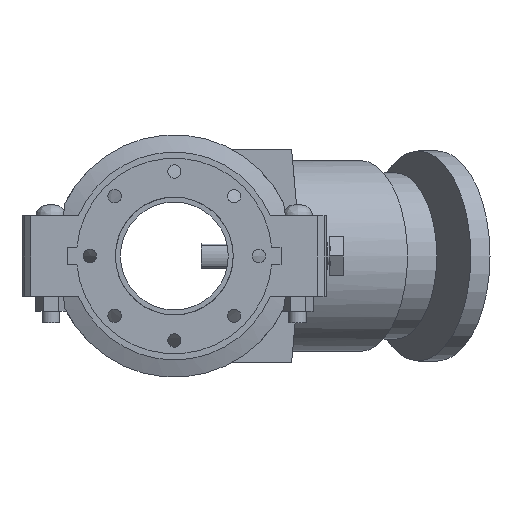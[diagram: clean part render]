
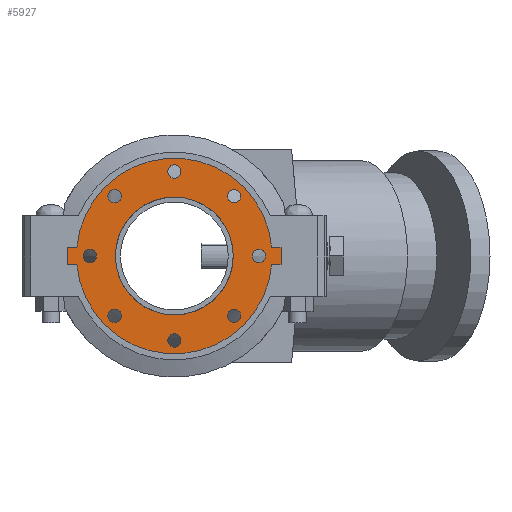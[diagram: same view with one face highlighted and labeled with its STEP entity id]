
A CAD part, front view. The second image highlights one B-rep face of the part: STEP entity #5927.
In plain terms, the highlighted planar face has unit normal (0, -1, 0) as drawn and (0, 0, 1) by its records, which use the part's own axes.
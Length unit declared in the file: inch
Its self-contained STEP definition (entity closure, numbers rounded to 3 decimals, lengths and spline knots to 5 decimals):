
#155=FACE_BOUND('',#786,.T.);
#156=FACE_BOUND('',#787,.T.);
#157=FACE_BOUND('',#788,.T.);
#158=FACE_BOUND('',#789,.T.);
#159=FACE_BOUND('',#790,.T.);
#160=FACE_BOUND('',#791,.T.);
#161=FACE_BOUND('',#792,.T.);
#162=FACE_BOUND('',#793,.T.);
#163=FACE_BOUND('',#794,.T.);
#236=PLANE('',#6491);
#446=FACE_OUTER_BOUND('',#785,.T.);
#785=EDGE_LOOP('',(#3885,#3886,#3887,#3888,#3889,#3890,#3891,#3892));
#786=EDGE_LOOP('',(#3893));
#787=EDGE_LOOP('',(#3894));
#788=EDGE_LOOP('',(#3895));
#789=EDGE_LOOP('',(#3896));
#790=EDGE_LOOP('',(#3897));
#791=EDGE_LOOP('',(#3898));
#792=EDGE_LOOP('',(#3899));
#793=EDGE_LOOP('',(#3900));
#794=EDGE_LOOP('',(#3901,#3902));
#1191=LINE('',#9108,#1627);
#1192=LINE('',#9111,#1628);
#1195=LINE('',#9116,#1631);
#1196=LINE('',#9119,#1632);
#1198=LINE('',#9122,#1634);
#1199=LINE('',#9124,#1635);
#1627=VECTOR('',#7256,0.3937);
#1628=VECTOR('',#7259,0.3937);
#1631=VECTOR('',#7264,0.3937);
#1632=VECTOR('',#7267,0.3937);
#1634=VECTOR('',#7271,0.3937);
#1635=VECTOR('',#7274,0.3937);
#2043=CIRCLE('',#6450,0.375);
#2045=CIRCLE('',#6453,0.375);
#2047=CIRCLE('',#6456,0.375);
#2049=CIRCLE('',#6459,0.375);
#2051=CIRCLE('',#6462,0.375);
#2053=CIRCLE('',#6465,0.375);
#2055=CIRCLE('',#6468,0.375);
#2057=CIRCLE('',#6471,0.375);
#2063=CIRCLE('',#6479,5.5);
#2064=CIRCLE('',#6481,3.3125);
#2065=CIRCLE('',#6482,3.3125);
#2066=CIRCLE('',#6484,5.5);
#2392=VERTEX_POINT('',#9019);
#2394=VERTEX_POINT('',#9025);
#2396=VERTEX_POINT('',#9031);
#2398=VERTEX_POINT('',#9037);
#2400=VERTEX_POINT('',#9043);
#2402=VERTEX_POINT('',#9049);
#2404=VERTEX_POINT('',#9055);
#2406=VERTEX_POINT('',#9061);
#2418=VERTEX_POINT('',#9088);
#2419=VERTEX_POINT('',#9090);
#2420=VERTEX_POINT('',#9094);
#2421=VERTEX_POINT('',#9096);
#2422=VERTEX_POINT('',#9100);
#2423=VERTEX_POINT('',#9102);
#2424=VERTEX_POINT('',#9106);
#2425=VERTEX_POINT('',#9110);
#2426=VERTEX_POINT('',#9114);
#2427=VERTEX_POINT('',#9118);
#2965=EDGE_CURVE('',#2392,#2392,#2043,.T.);
#2968=EDGE_CURVE('',#2394,#2394,#2045,.T.);
#2971=EDGE_CURVE('',#2396,#2396,#2047,.T.);
#2974=EDGE_CURVE('',#2398,#2398,#2049,.T.);
#2977=EDGE_CURVE('',#2400,#2400,#2051,.T.);
#2980=EDGE_CURVE('',#2402,#2402,#2053,.T.);
#2983=EDGE_CURVE('',#2404,#2404,#2055,.T.);
#2986=EDGE_CURVE('',#2406,#2406,#2057,.T.);
#3001=EDGE_CURVE('',#2418,#2419,#2063,.T.);
#3003=EDGE_CURVE('',#2421,#2420,#2064,.T.);
#3004=EDGE_CURVE('',#2420,#2421,#2065,.T.);
#3006=EDGE_CURVE('',#2423,#2422,#2066,.T.);
#3009=EDGE_CURVE('',#2419,#2424,#1191,.T.);
#3010=EDGE_CURVE('',#2425,#2423,#1192,.T.);
#3013=EDGE_CURVE('',#2422,#2426,#1195,.T.);
#3014=EDGE_CURVE('',#2427,#2418,#1196,.T.);
#3016=EDGE_CURVE('',#2426,#2427,#1198,.T.);
#3017=EDGE_CURVE('',#2424,#2425,#1199,.T.);
#3885=ORIENTED_EDGE('',*,*,#3013,.T.);
#3886=ORIENTED_EDGE('',*,*,#3016,.T.);
#3887=ORIENTED_EDGE('',*,*,#3014,.T.);
#3888=ORIENTED_EDGE('',*,*,#3001,.T.);
#3889=ORIENTED_EDGE('',*,*,#3009,.T.);
#3890=ORIENTED_EDGE('',*,*,#3017,.T.);
#3891=ORIENTED_EDGE('',*,*,#3010,.T.);
#3892=ORIENTED_EDGE('',*,*,#3006,.T.);
#3893=ORIENTED_EDGE('',*,*,#2965,.T.);
#3894=ORIENTED_EDGE('',*,*,#2968,.T.);
#3895=ORIENTED_EDGE('',*,*,#2971,.T.);
#3896=ORIENTED_EDGE('',*,*,#2974,.T.);
#3897=ORIENTED_EDGE('',*,*,#2977,.T.);
#3898=ORIENTED_EDGE('',*,*,#2980,.T.);
#3899=ORIENTED_EDGE('',*,*,#2983,.T.);
#3900=ORIENTED_EDGE('',*,*,#2986,.T.);
#3901=ORIENTED_EDGE('',*,*,#3003,.T.);
#3902=ORIENTED_EDGE('',*,*,#3004,.T.);
#5927=ADVANCED_FACE('',(#446,#155,#156,#157,#158,#159,#160,#161,#162,#163),
#236,.T.);
#6450=AXIS2_PLACEMENT_3D('',#9020,#7164,#7165);
#6453=AXIS2_PLACEMENT_3D('',#9026,#7171,#7172);
#6456=AXIS2_PLACEMENT_3D('',#9032,#7178,#7179);
#6459=AXIS2_PLACEMENT_3D('',#9038,#7185,#7186);
#6462=AXIS2_PLACEMENT_3D('',#9044,#7192,#7193);
#6465=AXIS2_PLACEMENT_3D('',#9050,#7199,#7200);
#6468=AXIS2_PLACEMENT_3D('',#9056,#7206,#7207);
#6471=AXIS2_PLACEMENT_3D('',#9062,#7213,#7214);
#6479=AXIS2_PLACEMENT_3D('',#9092,#7238,#7239);
#6481=AXIS2_PLACEMENT_3D('',#9097,#7243,#7244);
#6482=AXIS2_PLACEMENT_3D('',#9098,#7245,#7246);
#6484=AXIS2_PLACEMENT_3D('',#9103,#7250,#7251);
#6491=AXIS2_PLACEMENT_3D('',#9125,#7275,#7276);
#7164=DIRECTION('center_axis',(0.,0.,-1.));
#7165=DIRECTION('ref_axis',(-0.707,0.707,0.));
#7171=DIRECTION('center_axis',(0.,0.,-1.));
#7172=DIRECTION('ref_axis',(0.,1.,0.));
#7178=DIRECTION('center_axis',(0.,0.,-1.));
#7179=DIRECTION('ref_axis',(0.707,0.707,0.));
#7185=DIRECTION('center_axis',(0.,0.,-1.));
#7186=DIRECTION('ref_axis',(1.,0.,0.));
#7192=DIRECTION('center_axis',(0.,0.,-1.));
#7193=DIRECTION('ref_axis',(0.707,-0.707,0.));
#7199=DIRECTION('center_axis',(0.,0.,-1.));
#7200=DIRECTION('ref_axis',(0.,-1.,0.));
#7206=DIRECTION('center_axis',(0.,0.,-1.));
#7207=DIRECTION('ref_axis',(-0.707,-0.707,0.));
#7213=DIRECTION('center_axis',(0.,0.,-1.));
#7214=DIRECTION('ref_axis',(-1.,0.,0.));
#7238=DIRECTION('center_axis',(0.,0.,1.));
#7239=DIRECTION('ref_axis',(-1.,0.,0.));
#7243=DIRECTION('center_axis',(0.,0.,-1.));
#7244=DIRECTION('ref_axis',(-1.,0.,0.));
#7245=DIRECTION('center_axis',(0.,0.,-1.));
#7246=DIRECTION('ref_axis',(-1.,0.,0.));
#7250=DIRECTION('center_axis',(0.,0.,1.));
#7251=DIRECTION('ref_axis',(-1.,0.,0.));
#7256=DIRECTION('',(0.,1.,0.));
#7259=DIRECTION('',(0.,-1.,0.));
#7264=DIRECTION('',(0.,-1.,0.));
#7267=DIRECTION('',(0.,1.,0.));
#7271=DIRECTION('',(1.,0.,0.));
#7274=DIRECTION('',(-1.,0.,0.));
#7275=DIRECTION('center_axis',(0.,0.,1.));
#7276=DIRECTION('ref_axis',(1.,0.,0.));
#9019=CARTESIAN_POINT('',(-3.09359,3.09359,0.5));
#9020=CARTESIAN_POINT('Origin',(-3.35876,3.35876,0.5));
#9025=CARTESIAN_POINT('',(0.,4.375,0.5));
#9026=CARTESIAN_POINT('Origin',(0.,4.75,0.5));
#9031=CARTESIAN_POINT('',(3.09359,3.09359,0.5));
#9032=CARTESIAN_POINT('Origin',(3.35876,3.35876,0.5));
#9037=CARTESIAN_POINT('',(4.375,0.,0.5));
#9038=CARTESIAN_POINT('Origin',(4.75,0.,0.5));
#9043=CARTESIAN_POINT('',(3.09359,-3.09359,0.5));
#9044=CARTESIAN_POINT('Origin',(3.35876,-3.35876,0.5));
#9049=CARTESIAN_POINT('',(0.,-4.375,0.5));
#9050=CARTESIAN_POINT('Origin',(0.,-4.75,0.5));
#9055=CARTESIAN_POINT('',(-3.09359,-3.09359,0.5));
#9056=CARTESIAN_POINT('Origin',(-3.35876,-3.35876,0.5));
#9061=CARTESIAN_POINT('',(-4.375,0.,0.5));
#9062=CARTESIAN_POINT('Origin',(-4.75,0.,0.5));
#9088=CARTESIAN_POINT('',(0.5,-5.47723,0.5));
#9090=CARTESIAN_POINT('',(0.5,5.47723,0.5));
#9092=CARTESIAN_POINT('Origin',(0.,0.,0.5));
#9094=CARTESIAN_POINT('',(3.3125,0.,0.5));
#9096=CARTESIAN_POINT('',(0.5,3.27455,0.5));
#9097=CARTESIAN_POINT('Origin',(0.,0.,0.5));
#9098=CARTESIAN_POINT('Origin',(0.,0.,0.5));
#9100=CARTESIAN_POINT('',(-0.5,-5.47723,0.5));
#9102=CARTESIAN_POINT('',(-0.5,5.47723,0.5));
#9103=CARTESIAN_POINT('Origin',(0.,0.,0.5));
#9106=CARTESIAN_POINT('',(0.5,6.,0.5));
#9108=CARTESIAN_POINT('',(0.5,6.,0.5));
#9110=CARTESIAN_POINT('',(-0.5,6.,0.5));
#9111=CARTESIAN_POINT('',(-0.5,-6.,0.5));
#9114=CARTESIAN_POINT('',(-0.5,-6.,0.5));
#9116=CARTESIAN_POINT('',(-0.5,-6.,0.5));
#9118=CARTESIAN_POINT('',(0.5,-6.,0.5));
#9119=CARTESIAN_POINT('',(0.5,6.,0.5));
#9122=CARTESIAN_POINT('',(0.5,-6.,0.5));
#9124=CARTESIAN_POINT('',(-0.5,6.,0.5));
#9125=CARTESIAN_POINT('Origin',(0.,0.,0.5));
